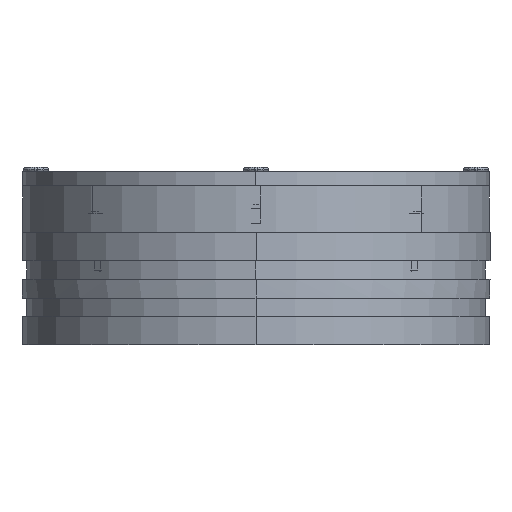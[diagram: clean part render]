
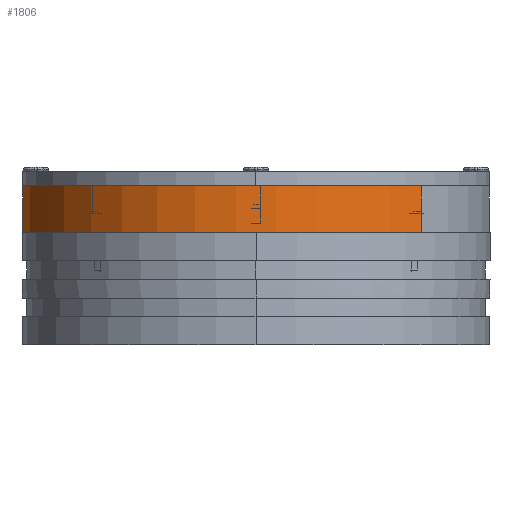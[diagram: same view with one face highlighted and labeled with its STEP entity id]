
A CAD part, left-side view. The second image highlights one B-rep face of the part: STEP entity #1806.
In plain terms, the highlighted cylindrical face has radius 25 mm (diameter 50 mm), a partial arc.
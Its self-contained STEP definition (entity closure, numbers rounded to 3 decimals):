
#1806=ADVANCED_FACE('',(#3648),#3649,.T.);
#3648=FACE_OUTER_BOUND('',#5786,.T.);
#3649=CYLINDRICAL_SURFACE('',#5787,25.0);
#5786=EDGE_LOOP('',(#10677,#10678,#10679,#10680));
#5787=AXIS2_PLACEMENT_3D('',#10681,#10682,#10683);
#10677=ORIENTED_EDGE('',*,*,#14011,.F.);
#10678=ORIENTED_EDGE('',*,*,#14012,.F.);
#10679=ORIENTED_EDGE('',*,*,#14013,.F.);
#10680=ORIENTED_EDGE('',*,*,#14014,.T.);
#10681=CARTESIAN_POINT('',(0.,0.,0.0));
#10682=DIRECTION('',(0.,0.,-1.0));
#10683=DIRECTION('',(1.0,0.,0.0));
#14011=EDGE_CURVE('',#17384,#17385,#17386,.T.);
#14012=EDGE_CURVE('',#17387,#17384,#17388,.T.);
#14013=EDGE_CURVE('',#17389,#17387,#17390,.T.);
#14014=EDGE_CURVE('',#17389,#17385,#17391,.T.);
#17384=VERTEX_POINT('',#24117);
#17385=VERTEX_POINT('',#24118);
#17386=LINE('',#24119,#24120);
#17387=VERTEX_POINT('',#24121);
#17388=CIRCLE('',#24122,25.0);
#17389=VERTEX_POINT('',#24123);
#17390=LINE('',#24124,#24125);
#17391=CIRCLE('',#24126,25.0);
#24117=CARTESIAN_POINT('',(-25.0,0.,5.0));
#24118=CARTESIAN_POINT('',(-25.0,0.,0.0));
#24119=CARTESIAN_POINT('',(-25.0,0.,0.));
#24120=VECTOR('',#26814,1.0);
#24121=CARTESIAN_POINT('',(25.0,0.0,5.0));
#24122=AXIS2_PLACEMENT_3D('',#26815,#26816,#26817);
#24123=CARTESIAN_POINT('',(25.0,0.0,0.0));
#24124=CARTESIAN_POINT('',(25.0,0.,0.0));
#24125=VECTOR('',#26818,5.0);
#24126=AXIS2_PLACEMENT_3D('',#26819,#26820,#26821);
#26814=DIRECTION('',(0.,0.,-1.0));
#26815=CARTESIAN_POINT('',(0.0,0.0,5.0));
#26816=DIRECTION('',(0.0,0.0,1.0));
#26817=DIRECTION('',(1.0,0.0,0.0));
#26818=DIRECTION('',(0.0,0.0,1.0));
#26819=CARTESIAN_POINT('',(0.0,0.0,0.0));
#26820=DIRECTION('',(0.0,0.0,1.0));
#26821=DIRECTION('',(1.0,0.0,0.0));
